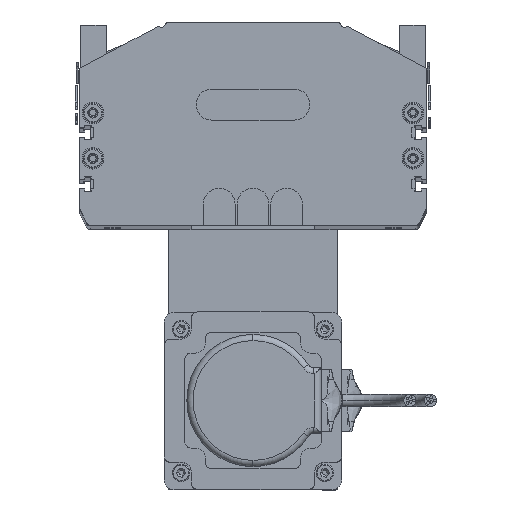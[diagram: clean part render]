
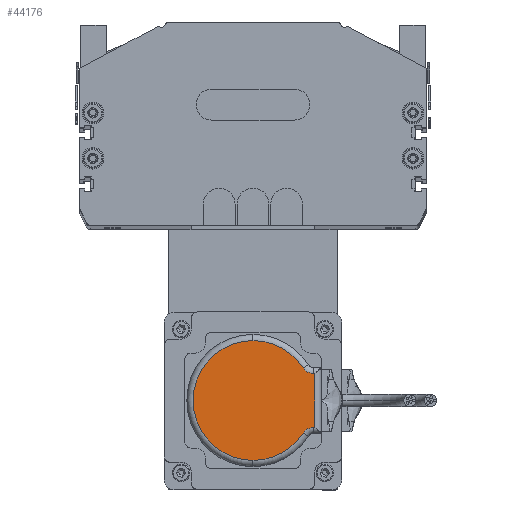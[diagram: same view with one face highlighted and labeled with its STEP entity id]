
A CAD part, top view. The second image highlights one B-rep face of the part: STEP entity #44176.
In plain terms, the highlighted planar face has unit normal (0, 0, 1).
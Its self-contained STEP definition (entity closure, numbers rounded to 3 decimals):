
#21910 = CIRCLE ( 'NONE', #22006, 29. ) ;
#21920 = CARTESIAN_POINT ( 'NONE',  ( 62., 33., 26. ) ) ;
#22000 = DIRECTION ( 'NONE',  ( 1., 0., 0. ) ) ;
#22003 = DIRECTION ( 'NONE',  ( 0., 0., 1. ) ) ;
#22005 = CARTESIAN_POINT ( 'NONE',  ( 33., 33., 26. ) ) ;
#22006 = AXIS2_PLACEMENT_3D ( 'NONE', #22005, #22003, #22000 ) ;
#22623 = CARTESIAN_POINT ( 'NONE',  ( 20., 62.394, 26. ) ) ;
#22660 = FACE_OUTER_BOUND ( 'NONE', #44006, .T. ) ;
#22727 = DIRECTION ( 'NONE',  ( 1., 0., 0. ) ) ;
#22729 = DIRECTION ( 'NONE',  ( 0., 0., 1. ) ) ;
#22731 = CARTESIAN_POINT ( 'NONE',  ( 33., 33., 26. ) ) ;
#22733 = AXIS2_PLACEMENT_3D ( 'NONE', #22731, #22729, #22727 ) ;
#22738 = PLANE ( 'NONE',  #22733 ) ;
#22745 = CARTESIAN_POINT ( 'NONE',  ( 48.743, 57.355, 26. ) ) ;
#22808 = CARTESIAN_POINT ( 'NONE',  ( 17.5, 63., 26. ) ) ;
#22809 = LINE ( 'NONE', #22808, #22856 ) ;
#22824 = DIRECTION ( 'NONE',  ( 1., 0., 0. ) ) ;
#22825 = DIRECTION ( 'NONE',  ( 0., 0., 1. ) ) ;
#22826 = CARTESIAN_POINT ( 'NONE',  ( 14., 62.394, 26. ) ) ;
#22834 = LINE ( 'NONE', #22907, #22905 ) ;
#22846 = CIRCLE ( 'NONE', #22851, 6. ) ;
#22851 = AXIS2_PLACEMENT_3D ( 'NONE', #22826, #22825, #22824 ) ;
#22854 = DIRECTION ( 'NONE',  ( -1., 0., 0. ) ) ;
#22856 = VECTOR ( 'NONE', #22854, 1000. ) ;
#22857 = CARTESIAN_POINT ( 'NONE',  ( 46., 63., 26. ) ) ;
#22872 = CARTESIAN_POINT ( 'NONE',  ( 20., 63., 26. ) ) ;
#22880 = AXIS2_PLACEMENT_3D ( 'NONE', #22979, #22977, #22975 ) ;
#22894 = CIRCLE ( 'NONE', #22880, 29. ) ;
#22904 = DIRECTION ( 'NONE',  ( 0., -1., 0. ) ) ;
#22905 = VECTOR ( 'NONE', #22904, 1000. ) ;
#22907 = CARTESIAN_POINT ( 'NONE',  ( 20., 33., 26. ) ) ;
#22975 = DIRECTION ( 'NONE',  ( 1., 0., 0. ) ) ;
#22977 = DIRECTION ( 'NONE',  ( 0., 0., 1. ) ) ;
#22979 = CARTESIAN_POINT ( 'NONE',  ( 33., 33., 26. ) ) ;
#23078 = LINE ( 'NONE', #23168, #23166 ) ;
#23086 = CIRCLE ( 'NONE', #23090, 6. ) ;
#23090 = AXIS2_PLACEMENT_3D ( 'NONE', #23154, #23152, #23150 ) ;
#23107 = CARTESIAN_POINT ( 'NONE',  ( 46., 62.394, 26. ) ) ;
#23150 = DIRECTION ( 'NONE',  ( 1., 0., 0. ) ) ;
#23152 = DIRECTION ( 'NONE',  ( 0., 0., 1. ) ) ;
#23154 = CARTESIAN_POINT ( 'NONE',  ( 52., 62.394, 26. ) ) ;
#23164 = DIRECTION ( 'NONE',  ( 0., 1., 0. ) ) ;
#23166 = VECTOR ( 'NONE', #23164, 1000. ) ;
#23168 = CARTESIAN_POINT ( 'NONE',  ( 46., 33., 26. ) ) ;
#31728 = CARTESIAN_POINT ( 'NONE',  ( 17.257, 57.355, 26. ) ) ;
#34740 = VERTEX_POINT ( 'NONE', #43461 ) ;
#34754 = EDGE_CURVE ( 'NONE', #57880, #34740, #43541, .T. ) ;
#39700 = EDGE_CURVE ( 'NONE', #34740, #39710, #21910, .T. ) ;
#39710 = VERTEX_POINT ( 'NONE', #21920 ) ;
#43461 = CARTESIAN_POINT ( 'NONE',  ( 4., 33., 26. ) ) ;
#43528 = DIRECTION ( 'NONE',  ( 1., 0., 0. ) ) ;
#43529 = DIRECTION ( 'NONE',  ( 0., 0., 1. ) ) ;
#43530 = CARTESIAN_POINT ( 'NONE',  ( 33., 33., 26. ) ) ;
#43534 = AXIS2_PLACEMENT_3D ( 'NONE', #43530, #43529, #43528 ) ;
#43541 = CIRCLE ( 'NONE', #43534, 29. ) ;
#43633 = VERTEX_POINT ( 'NONE', #22623 ) ;
#44006 = EDGE_LOOP ( 'NONE', ( #45563, #45290, #45333, #44781, #44080, #45113, #45432, #45495 ) ) ;
#44080 = ORIENTED_EDGE ( 'NONE', *, *, #45627, .F. ) ;
#44176 = ADVANCED_FACE ( 'NONE', ( #22660 ), #22738, .T. ) ;
#44315 = VERTEX_POINT ( 'NONE', #22745 ) ;
#44650 = VERTEX_POINT ( 'NONE', #22872 ) ;
#44677 = EDGE_CURVE ( 'NONE', #45006, #44650, #22809, .T. ) ;
#44781 = ORIENTED_EDGE ( 'NONE', *, *, #45251, .T. ) ;
#45006 = VERTEX_POINT ( 'NONE', #22857 ) ;
#45060 = EDGE_CURVE ( 'NONE', #57880, #43633, #22846, .T. ) ;
#45113 = ORIENTED_EDGE ( 'NONE', *, *, #45624, .T. ) ;
#45149 = EDGE_CURVE ( 'NONE', #44650, #43633, #22834, .T. ) ;
#45251 = EDGE_CURVE ( 'NONE', #39710, #44315, #22894, .T. ) ;
#45290 = ORIENTED_EDGE ( 'NONE', *, *, #34754, .T. ) ;
#45333 = ORIENTED_EDGE ( 'NONE', *, *, #39700, .T. ) ;
#45432 = ORIENTED_EDGE ( 'NONE', *, *, #44677, .T. ) ;
#45495 = ORIENTED_EDGE ( 'NONE', *, *, #45149, .T. ) ;
#45563 = ORIENTED_EDGE ( 'NONE', *, *, #45060, .F. ) ;
#45624 = EDGE_CURVE ( 'NONE', #45629, #45006, #23078, .T. ) ;
#45627 = EDGE_CURVE ( 'NONE', #45629, #44315, #23086, .T. ) ;
#45629 = VERTEX_POINT ( 'NONE', #23107 ) ;
#57880 = VERTEX_POINT ( 'NONE', #31728 ) ;
